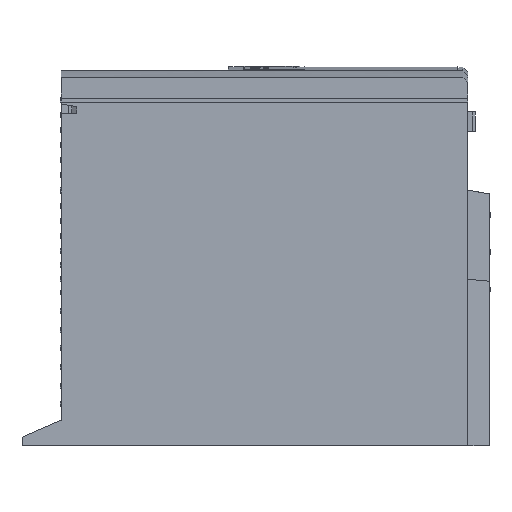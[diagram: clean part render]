
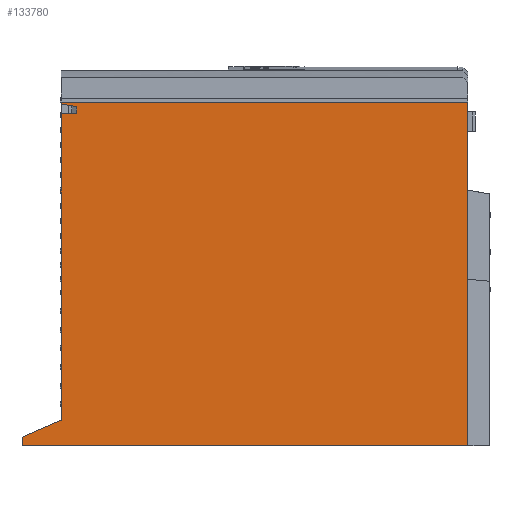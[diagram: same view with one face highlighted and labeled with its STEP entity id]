
A CAD part, left-side view. The second image highlights one B-rep face of the part: STEP entity #133780.
In plain terms, the highlighted planar face has unit normal (-1, 0, 0).
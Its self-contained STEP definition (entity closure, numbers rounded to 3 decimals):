
#4701 = DIRECTION ( 'NONE',  ( 0., -1., 0. ) ) ;
#8173 = CARTESIAN_POINT ( 'NONE',  ( -90., -20., 175.4 ) ) ;
#8338 = CARTESIAN_POINT ( 'NONE',  ( -90., -20.2, 169.5 ) ) ;
#9470 = VERTEX_POINT ( 'NONE', #67090 ) ;
#11810 = DIRECTION ( 'NONE',  ( 0., -1., 0. ) ) ;
#13193 = LINE ( 'NONE', #228764, #142558 ) ;
#14261 = ORIENTED_EDGE ( 'NONE', *, *, #32418, .T. ) ;
#19311 = EDGE_CURVE ( 'NONE', #231599, #67748, #103352, .T. ) ;
#20592 = VERTEX_POINT ( 'NONE', #53980 ) ;
#28093 = ORIENTED_EDGE ( 'NONE', *, *, #41230, .F. ) ;
#28398 = DIRECTION ( 'NONE',  ( 0., 0., 1. ) ) ;
#28867 = VECTOR ( 'NONE', #96455, 1000. ) ;
#31020 = EDGE_CURVE ( 'NONE', #278768, #77483, #188480, .T. ) ;
#32418 = EDGE_CURVE ( 'NONE', #9470, #278768, #87968, .T. ) ;
#34005 = VECTOR ( 'NONE', #41460, 1000. ) ;
#41230 = EDGE_CURVE ( 'NONE', #161834, #81279, #248180, .T. ) ;
#41460 = DIRECTION ( 'NONE',  ( 0., -0.985, -0.174 ) ) ;
#47890 = CARTESIAN_POINT ( 'NONE',  ( -90., 0., 0. ) ) ;
#51729 = LINE ( 'NONE', #93003, #178444 ) ;
#53634 = ORIENTED_EDGE ( 'NONE', *, *, #64713, .T. ) ;
#53980 = CARTESIAN_POINT ( 'NONE',  ( -90., -20., 174.47 ) ) ;
#58250 = CARTESIAN_POINT ( 'NONE',  ( -90., 0., 0. ) ) ;
#60605 = CARTESIAN_POINT ( 'NONE',  ( -90., -227.5, 175.4 ) ) ;
#62390 = CARTESIAN_POINT ( 'NONE',  ( -90., -20., 165.8 ) ) ;
#64713 = EDGE_CURVE ( 'NONE', #20592, #81279, #152853, .T. ) ;
#64963 = FACE_OUTER_BOUND ( 'NONE', #81580, .T. ) ;
#67090 = CARTESIAN_POINT ( 'NONE',  ( -90., -20., 165.8 ) ) ;
#67748 = VERTEX_POINT ( 'NONE', #200863 ) ;
#74440 = CARTESIAN_POINT ( 'NONE',  ( -90., -20., 165.8 ) ) ;
#77483 = VERTEX_POINT ( 'NONE', #277824 ) ;
#79718 = CARTESIAN_POINT ( 'NONE',  ( -90., -227.5, 0. ) ) ;
#81279 = VERTEX_POINT ( 'NONE', #112511 ) ;
#81580 = EDGE_LOOP ( 'NONE', ( #14261, #177568, #221204, #242595, #200177, #124452, #106480, #265972, #53634, #28093, #265414, #119492, #270857 ) ) ;
#85303 = EDGE_CURVE ( 'NONE', #9470, #102767, #113071, .T. ) ;
#87968 = LINE ( 'NONE', #62390, #227281 ) ;
#93003 = CARTESIAN_POINT ( 'NONE',  ( -90., 0., 4.5 ) ) ;
#96455 = DIRECTION ( 'NONE',  ( 0., 0., -1. ) ) ;
#100203 = VERTEX_POINT ( 'NONE', #79718 ) ;
#102767 = VERTEX_POINT ( 'NONE', #262563 ) ;
#103352 = LINE ( 'NONE', #60605, #129698 ) ;
#105147 = DIRECTION ( 'NONE',  ( 0., 0., -1. ) ) ;
#106480 = ORIENTED_EDGE ( 'NONE', *, *, #19311, .T. ) ;
#108998 = CARTESIAN_POINT ( 'NONE',  ( -90., -19.5, 13. ) ) ;
#112511 = CARTESIAN_POINT ( 'NONE',  ( -90., -28., 173.059 ) ) ;
#113071 = LINE ( 'NONE', #74440, #247541 ) ;
#116242 = EDGE_CURVE ( 'NONE', #102767, #244172, #199025, .T. ) ;
#119492 = ORIENTED_EDGE ( 'NONE', *, *, #116242, .F. ) ;
#122571 = DIRECTION ( 'NONE',  ( 0., 1., 0. ) ) ;
#124452 = ORIENTED_EDGE ( 'NONE', *, *, #202282, .F. ) ;
#125470 = DIRECTION ( 'NONE',  ( 0., 0., -1. ) ) ;
#129698 = VECTOR ( 'NONE', #279042, 1000. ) ;
#133780 = ADVANCED_FACE ( 'NONE', ( #64963 ), #243481, .F. ) ;
#134888 = DIRECTION ( 'NONE',  ( 0., 1., 0. ) ) ;
#135521 = VECTOR ( 'NONE', #241769, 1000. ) ;
#142558 = VECTOR ( 'NONE', #11810, 1000. ) ;
#146365 = CARTESIAN_POINT ( 'NONE',  ( -90., 0., 0. ) ) ;
#146455 = EDGE_CURVE ( 'NONE', #259112, #100203, #192096, .T. ) ;
#147037 = CARTESIAN_POINT ( 'NONE',  ( -90., -227.5, 175.4 ) ) ;
#152853 = LINE ( 'NONE', #154270, #34005 ) ;
#154270 = CARTESIAN_POINT ( 'NONE',  ( -90., -20., 174.47 ) ) ;
#157826 = VECTOR ( 'NONE', #219061, 1000. ) ;
#158924 = EDGE_CURVE ( 'NONE', #176783, #259112, #51729, .T. ) ;
#161311 = CARTESIAN_POINT ( 'NONE',  ( -90., 0., 4.5 ) ) ;
#161834 = VERTEX_POINT ( 'NONE', #175301 ) ;
#162795 = CARTESIAN_POINT ( 'NONE',  ( -90., -20., 13. ) ) ;
#171314 = LINE ( 'NONE', #147037, #236278 ) ;
#171519 = AXIS2_PLACEMENT_3D ( 'NONE', #47890, #262113, #134888 ) ;
#173801 = EDGE_CURVE ( 'NONE', #244172, #161834, #13193, .T. ) ;
#174147 = EDGE_CURVE ( 'NONE', #67748, #20592, #205224, .T. ) ;
#175301 = CARTESIAN_POINT ( 'NONE',  ( -90., -28., 169.5 ) ) ;
#176783 = VERTEX_POINT ( 'NONE', #161311 ) ;
#177568 = ORIENTED_EDGE ( 'NONE', *, *, #31020, .T. ) ;
#178444 = VECTOR ( 'NONE', #267363, 1000. ) ;
#188480 = LINE ( 'NONE', #162795, #280833 ) ;
#192096 = LINE ( 'NONE', #146365, #257408 ) ;
#194538 = CARTESIAN_POINT ( 'NONE',  ( -90., -227.5, 175.4 ) ) ;
#199025 = LINE ( 'NONE', #281721, #135521 ) ;
#200177 = ORIENTED_EDGE ( 'NONE', *, *, #146455, .T. ) ;
#200863 = CARTESIAN_POINT ( 'NONE',  ( -90., -20., 175.4 ) ) ;
#202282 = EDGE_CURVE ( 'NONE', #231599, #100203, #171314, .T. ) ;
#202613 = CARTESIAN_POINT ( 'NONE',  ( -90., -28., 169.5 ) ) ;
#205224 = LINE ( 'NONE', #8173, #28867 ) ;
#209327 = EDGE_CURVE ( 'NONE', #77483, #176783, #214834, .T. ) ;
#214834 = LINE ( 'NONE', #108998, #157826 ) ;
#219061 = DIRECTION ( 'NONE',  ( 0., 0.917, -0.4 ) ) ;
#221204 = ORIENTED_EDGE ( 'NONE', *, *, #209327, .T. ) ;
#227281 = VECTOR ( 'NONE', #105147, 1000. ) ;
#228764 = CARTESIAN_POINT ( 'NONE',  ( -90., -20.2, 169.5 ) ) ;
#231599 = VERTEX_POINT ( 'NONE', #194538 ) ;
#233397 = DIRECTION ( 'NONE',  ( 0., -1., 0. ) ) ;
#236278 = VECTOR ( 'NONE', #125470, 1000. ) ;
#241769 = DIRECTION ( 'NONE',  ( 0., 0., 1. ) ) ;
#242595 = ORIENTED_EDGE ( 'NONE', *, *, #158924, .T. ) ;
#243481 = PLANE ( 'NONE',  #171519 ) ;
#244172 = VERTEX_POINT ( 'NONE', #8338 ) ;
#247541 = VECTOR ( 'NONE', #4701, 1000. ) ;
#248180 = LINE ( 'NONE', #202613, #248235 ) ;
#248235 = VECTOR ( 'NONE', #28398, 1000. ) ;
#257408 = VECTOR ( 'NONE', #233397, 1000. ) ;
#259112 = VERTEX_POINT ( 'NONE', #58250 ) ;
#262113 = DIRECTION ( 'NONE',  ( 1., 0., 0. ) ) ;
#262563 = CARTESIAN_POINT ( 'NONE',  ( -90., -20.2, 165.8 ) ) ;
#265414 = ORIENTED_EDGE ( 'NONE', *, *, #173801, .F. ) ;
#265972 = ORIENTED_EDGE ( 'NONE', *, *, #174147, .T. ) ;
#267363 = DIRECTION ( 'NONE',  ( 0., 0., -1. ) ) ;
#270601 = CARTESIAN_POINT ( 'NONE',  ( -90., -20., 13. ) ) ;
#270857 = ORIENTED_EDGE ( 'NONE', *, *, #85303, .F. ) ;
#277824 = CARTESIAN_POINT ( 'NONE',  ( -90., -19.5, 13. ) ) ;
#278768 = VERTEX_POINT ( 'NONE', #270601 ) ;
#279042 = DIRECTION ( 'NONE',  ( 0., 1., 0. ) ) ;
#280833 = VECTOR ( 'NONE', #122571, 1000. ) ;
#281721 = CARTESIAN_POINT ( 'NONE',  ( -90., -20.2, 165.8 ) ) ;
